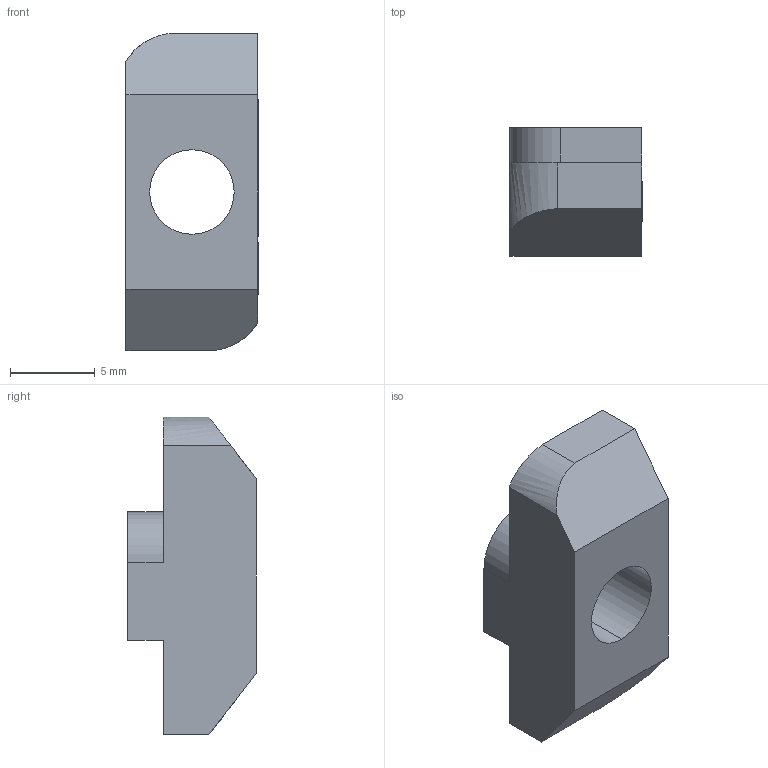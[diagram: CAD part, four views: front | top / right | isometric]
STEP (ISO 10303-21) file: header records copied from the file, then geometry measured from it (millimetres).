
FILE_DESCRIPTION (( 'STEP AP214' ), '1' );
FILE_NAME ('5010 Ïàç8, Ì5, ñåðèÿ 40 (óïðîùåííàÿ).STEP', '2022-08-18T09:19:15', ( 'Home' ), ( '' ), 'SwSTEP 2.0', 'SolidWorks 2020', '' );
FILE_SCHEMA (( 'AUTOMOTIVE_DESIGN' ));
Length unit declared in the file: millimetre
Products named in the file (1): 5010 Ïàç8, Ì5, ñåðèÿ 40 (óïðîùåííàÿ)
Bounding box: 7.81 x 7.6 x 18.8 mm (x, y, z)
Volume: 688.6 mm3; surface area: 708.4 mm2
Topology: 12 solids, 12 shells, 123 faces, 297 edges, 198 vertices
Faces by surface type: plane 85, bspline 34, cylinder 4
Entity records: 6584 total; most frequent: CARTESIAN_POINT 2634, ORIENTED_EDGE 594, DIRECTION 417, EDGE_CURVE 297, VECTOR 221, LINE 221, VERTEX_POINT 198, EDGE_LOOP 125
